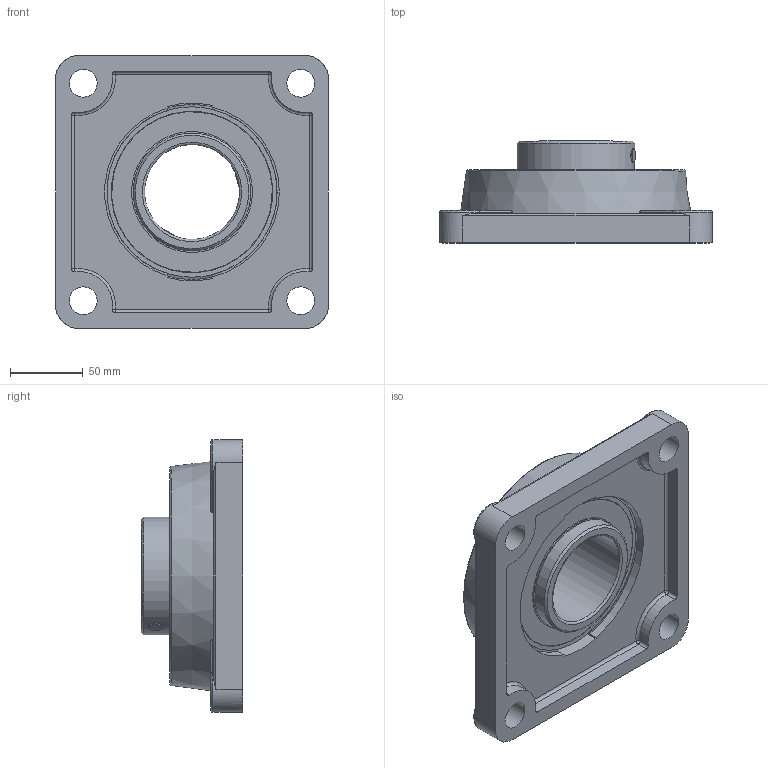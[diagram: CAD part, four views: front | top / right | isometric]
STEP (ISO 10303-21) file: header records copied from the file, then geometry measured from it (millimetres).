
FILE_DESCRIPTION(/* description */ (''),/* implementation_level */ '2;1');
FILE_NAME(/* name */ 'C:\MOJE SUBORY\03_Doplnenie 3D modelov\fgc\FGC213.stp',/* time_stamp */ '2020-12-09T12:02:58+01:00',/* author */ ('OUPIONTEKM'),/* organization */ (''),/* preprocessor_version */ 'ST-DEVELOPER v18.1',/* originating_system */ 'Autodesk Inventor 2021',/* authorisation */ '');
FILE_SCHEMA (('AUTOMOTIVE_DESIGN { 1 0 10303 214 3 1 1 }'));
Length unit declared in the file: millimetre
Products named in the file (3): FGC208; FG208; UC213
Assembly tree (2 placements, depth 2):
  FGC208
    FG208
    UC213
Bounding box: 187 x 69.7 x 187 mm (x, y, z)
Volume: 780241.8 mm3; surface area: 217823.2 mm2
Topology: 19 solids, 19 shells, 236 faces, 700 edges, 454 vertices
Faces by surface type: plane 92, cylinder 73, sphere 51, torus 13, cone 7
Full cylindrical faces by diameter (mm): 2 x2, 10 x4, 19 x4, 65 x1, 80.832 x6, 82.832 x2, 87.499 x2, 97.501 x2, 104.168 x2, 110.068 x2, 110.668 x4, 119.688 x1, 123.175 x1
Entity records: 9617 total; most frequent: CARTESIAN_POINT 3179, DIRECTION 1426, ORIENTED_EDGE 1296, EDGE_CURVE 648, AXIS2_PLACEMENT_3D 637, VERTEX_POINT 454, CIRCLE 392, EDGE_LOOP 274
